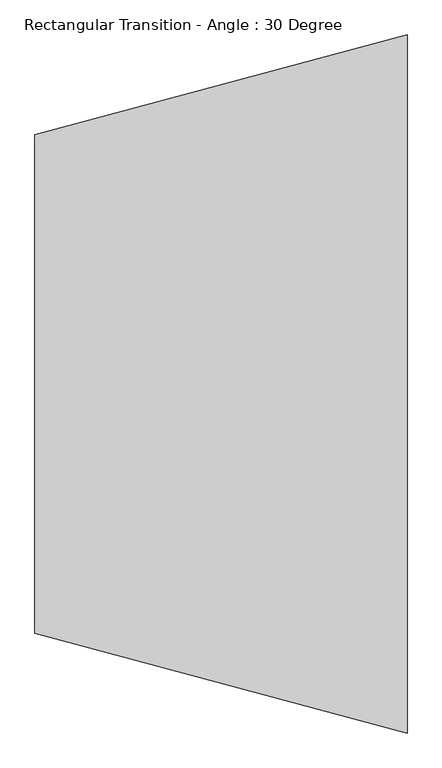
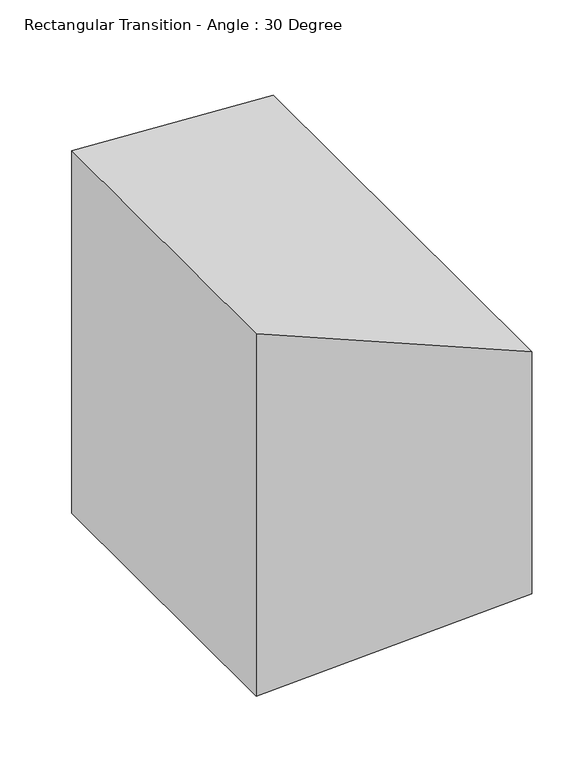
"""IFC4 building model written with IfcOpenShell, lengths in millimetres: duct fitting geometry, Rectangular Transition - Angle : 30 Degree."""

from ifc_helpers import new_model, si_unit, origin, place, context, project, spatial, faceted_brep, source, transform, mapped, element, save


def rectangular_transition_angle_30_degree_24c31662(model_context):
    return source(origin(), model_context, "Body", "Brep", [
        faceted_brep([(568.7645431, -533.4, 304.8), (568.7645431, -533.4, -304.8), (568.7645431, 533.4, -304.8), (568.7645431, 533.4, 304.8), (0.0, -381.0, 457.2), (0.0, 381.0, 457.2), (0.0, 381.0, -457.2), (0.0, -381.0, -457.2)], [[[0, 1, 2, 3]], [[4, 5, 6, 7]], [[4, 7, 1, 0]], [[7, 6, 2, 1]], [[6, 5, 3, 2]], [[5, 4, 0, 3]]]),
    ])


if __name__ == "__main__":
    model = new_model("IFC4")
    model_context = context("Model", 3, world=origin())
    ifc_project = project(units=[si_unit("LENGTHUNIT", "METRE", prefix="MILLI")], contexts=[model_context])
    site = spatial("IfcSite", under=ifc_project)
    building = spatial("IfcBuilding", under=site)
    placement = place(None, origin())
    rectangular_transition_angle_30_degree_shape = rectangular_transition_angle_30_degree_24c31662(model_context)
    element("IfcDuctFitting", 1, ObjectType="Rectangular Transition - Angle : 30 Degree", at=placement, inside=building, context=model_context, shape_type="MappedRepresentation", body=[
        mapped(rectangular_transition_angle_30_degree_shape, transform((0.0, 0.0, 0.0), x_axis=(1.0, 0.0, 0.0), y_axis=(0.0, 1.0, 0.0), z_axis=(0.0, 0.0, 1.0))),
    ])
    save(model, "model.ifc")
